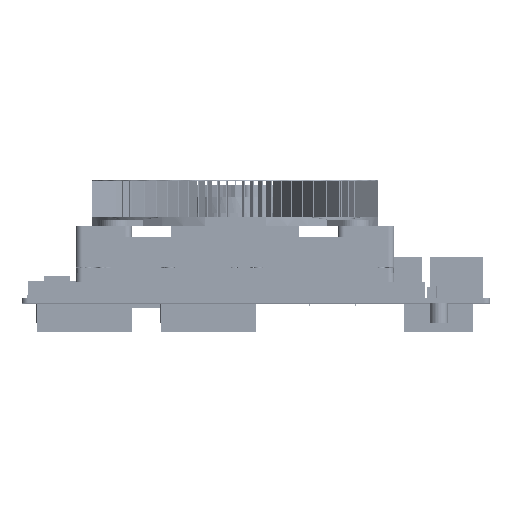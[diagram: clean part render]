
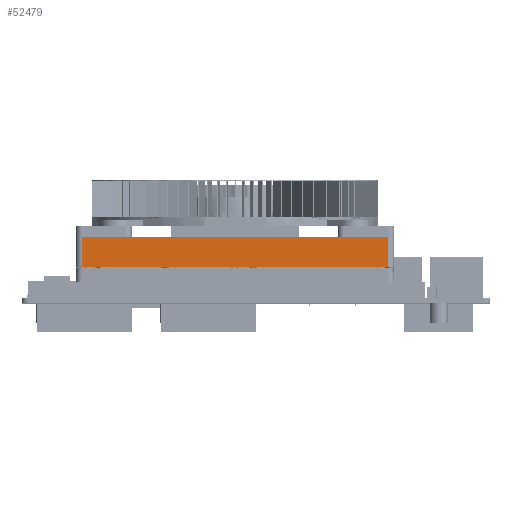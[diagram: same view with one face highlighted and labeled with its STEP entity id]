
A CAD part, top view. The second image highlights one B-rep face of the part: STEP entity #52479.
In plain terms, the highlighted planar face has unit normal (0, 0, 1) as drawn and (1, 0, 0) by its records, which use the part's own axes.
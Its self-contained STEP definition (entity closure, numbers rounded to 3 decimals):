
#48378=DIRECTION('',(0.,-1.,0.));
#48379=VECTOR('',#48378,96.);
#48380=CARTESIAN_POINT('',(84.5,89.75,1.698));
#48381=LINE('',#48380,#48379);
#48474=DIRECTION('',(0.,-1.,0.));
#48475=VECTOR('',#48474,96.);
#48476=CARTESIAN_POINT('',(84.5,89.75,11.198));
#48477=LINE('',#48476,#48475);
#48482=DIRECTION('',(0.,0.,-1.));
#48483=VECTOR('',#48482,9.5);
#48484=CARTESIAN_POINT('',(84.5,89.75,11.198));
#48485=LINE('',#48484,#48483);
#48735=DIRECTION('',(0.,0.,1.));
#48736=VECTOR('',#48735,9.5);
#48737=CARTESIAN_POINT('',(84.5,-6.25,1.698));
#48738=LINE('',#48737,#48736);
#51627=CARTESIAN_POINT('',(84.5,-6.25,1.698));
#51628=CARTESIAN_POINT('',(84.5,-6.25,11.198));
#51629=VERTEX_POINT('',#51627);
#51630=VERTEX_POINT('',#51628);
#51735=CARTESIAN_POINT('',(84.5,89.75,11.198));
#51736=CARTESIAN_POINT('',(84.5,89.75,1.698));
#51737=VERTEX_POINT('',#51735);
#51738=VERTEX_POINT('',#51736);
#52465=CARTESIAN_POINT('',(84.5,-6.25,1.698));
#52466=DIRECTION('',(1.,0.,0.));
#52467=DIRECTION('',(0.,1.,0.));
#52468=AXIS2_PLACEMENT_3D('',#52465,#52466,#52467);
#52469=PLANE('',#52468);
#52471=ORIENTED_EDGE('',*,*,#52470,.T.);
#52472=ORIENTED_EDGE('',*,*,#52415,.T.);
#52474=ORIENTED_EDGE('',*,*,#52473,.T.);
#52476=ORIENTED_EDGE('',*,*,#52475,.F.);
#52477=EDGE_LOOP('',(#52471,#52472,#52474,#52476));
#52478=FACE_OUTER_BOUND('',#52477,.F.);
#52415=EDGE_CURVE('',#51738,#51629,#48381,.T.);
#52470=EDGE_CURVE('',#51737,#51738,#48485,.T.);
#52473=EDGE_CURVE('',#51629,#51630,#48738,.T.);
#52475=EDGE_CURVE('',#51737,#51630,#48477,.T.);
#52479=ADVANCED_FACE('',(#52478),#52469,.T.);
